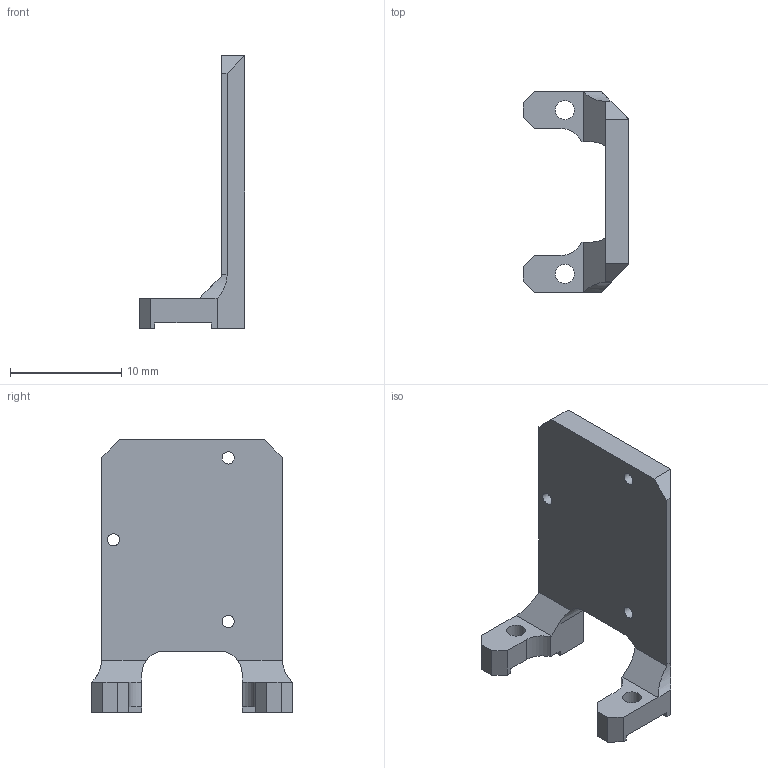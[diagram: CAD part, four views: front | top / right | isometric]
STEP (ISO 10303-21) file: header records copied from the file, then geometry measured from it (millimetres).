
FILE_DESCRIPTION(/* description */ (''),/* implementation_level */ '2;1');
FILE_NAME(/* name */ 'P181770C_VOL-001.stp',/* time_stamp */ '2022-03-24T08:37:33+01:00',/* author */ (''),/* organization */ ('JPE'),/* preprocessor_version */ 'ST-DEVELOPER v18.101',/* originating_system */ 'SIEMENS PLM Software NX 2015',/* authorisation */ '');
FILE_SCHEMA (('AUTOMOTIVE_DESIGN { 1 0 10303 214 3 1 1 1 }'));
Length unit declared in the file: millimetre
Products named in the file (2): P181770C; P181770C_BRO-001a
Assembly tree (1 placements, depth 2):
  P181770C_BRO-001a
    P181770C
Bounding box: 9.5 x 18 x 24.5 mm (x, y, z)
Volume: 794 mm3; surface area: 1039.2 mm2
Topology: 1 solids, 1 shells, 47 faces, 137 edges, 91 vertices
Faces by surface type: plane 36, cylinder 11
Full cylindrical faces by diameter (mm): 1.1 x3, 1.7 x2
Entity records: 1541 total; most frequent: CARTESIAN_POINT 262, ORIENTED_EDGE 254, DIRECTION 251, EDGE_CURVE 127, LINE 101, VECTOR 101, VERTEX_POINT 86, AXIS2_PLACEMENT_3D 75
